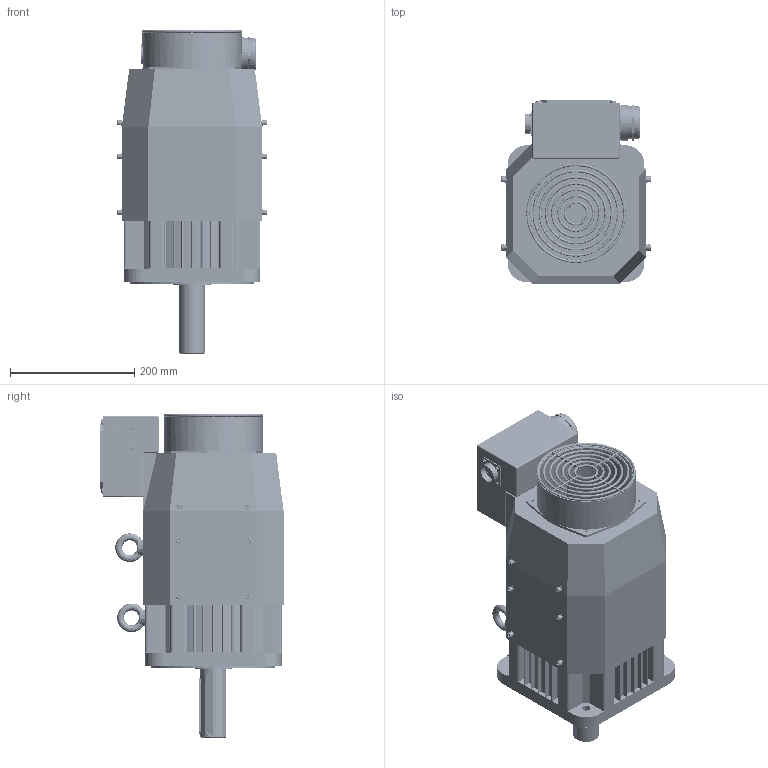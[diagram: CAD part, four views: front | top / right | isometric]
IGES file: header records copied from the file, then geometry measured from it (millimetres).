
Start section: SolidWorks IGES file using analytic representation for surfaces
Global section: file name: E:\00-工作任务\16-外形图\EMB\模型图\EMB-75D\简易模型EMB-75D\EMB-75D.IGS,15HSolidWorks; native system: 2018; preprocessor: SolidWorks 2018; author: shenjianhong; date: 200417.143619; units: millimetre
Bounding box: 240.6 x 295 x 521 mm (x, y, z)
Surface area: 1394470 mm2 (no closed solid volume)
Topology: 0 solids, 0 shells, 2035 faces, 29319 edges, 29203 vertices
Faces by surface type: bspline 1071, revolution 964
